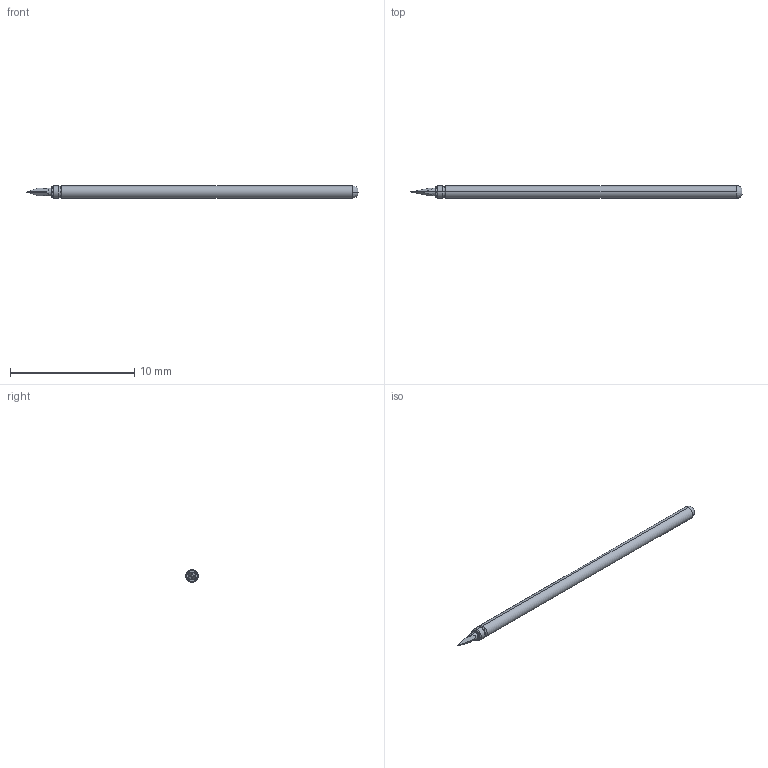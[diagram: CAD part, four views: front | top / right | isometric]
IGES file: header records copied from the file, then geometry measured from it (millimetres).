
Start section: SolidWorks IGES file using analytic representation for surfaces
Global section: file name: Z:\probe solid model mockups\Solidworks models\Parts\LFRE-1I35 FULL.IGS; native system: SolidWorks 2016; preprocessor: SolidWorks 2016; author: mlee; date: 180927.163315; units: inch
Bounding box: 26.67 x 1.02 x 1.02 mm (x, y, z)
Surface area: 81.8 mm2 (no closed solid volume)
Topology: 0 solids, 0 shells, 44 faces, 268 edges, 268 vertices
Faces by surface type: bspline 32, revolution 12
